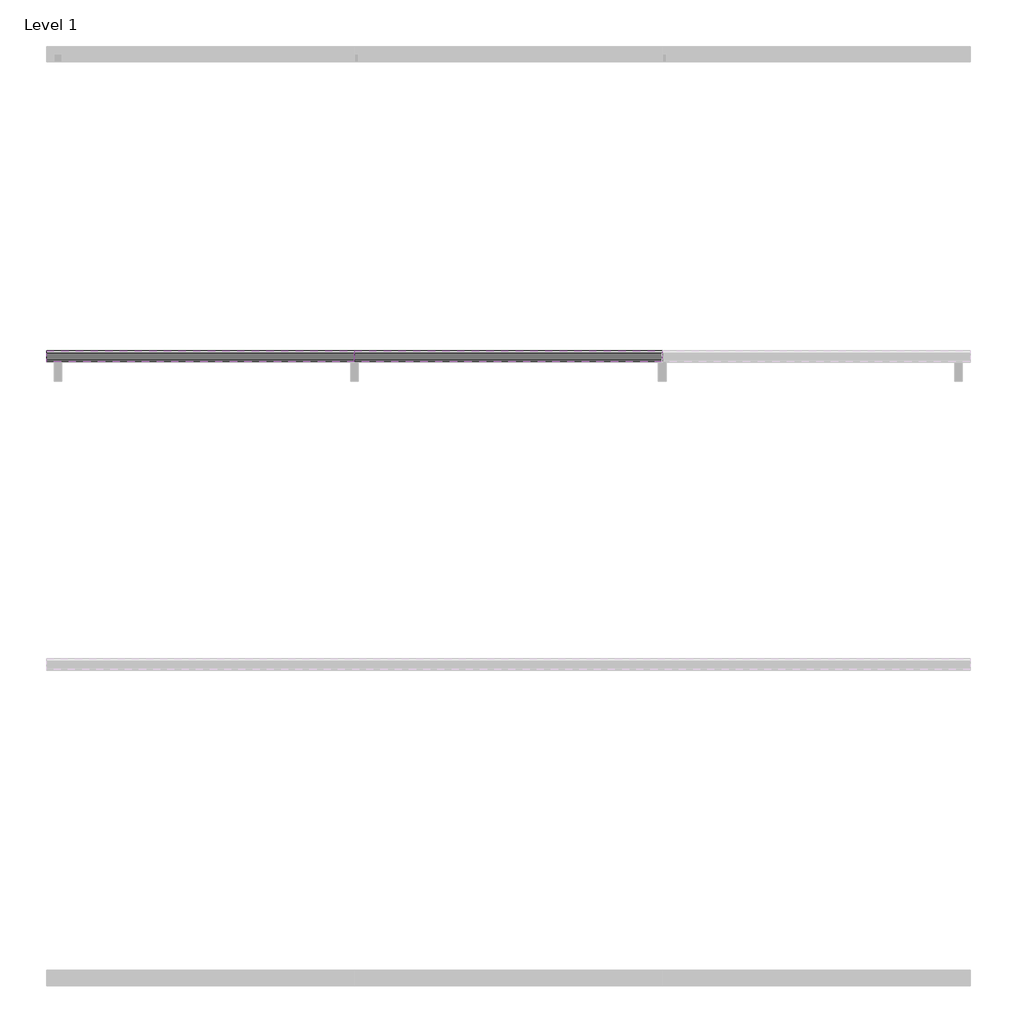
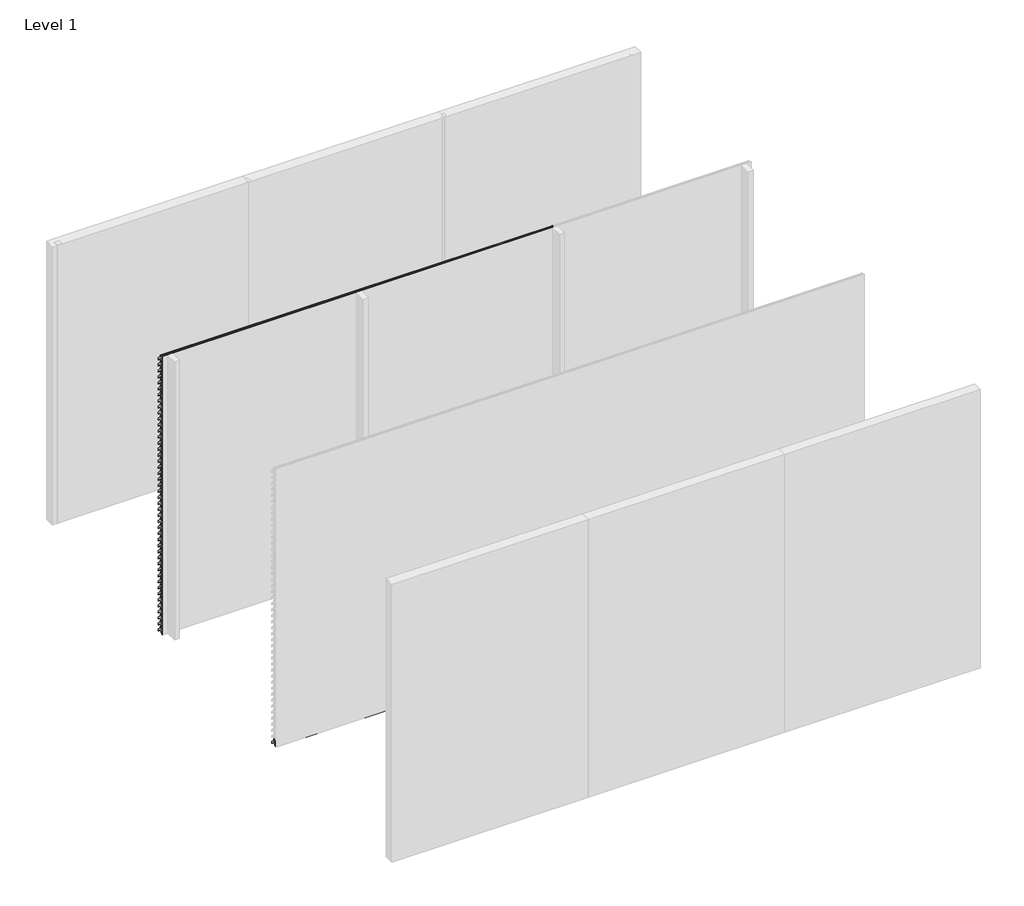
# One storey, part 2 of 9: 84 proxies.
"""IFC4 building model written with IfcOpenShell, lengths in millimetres."""

from ifc_helpers import new_model, si_unit, frame, origin, place, context, project, spatial, polyline, outline, extrude, element, save

model = new_model("IFC4")

# Units and contexts
model_context = context("Model", 3, world=origin())
ifc_project = project(units=[si_unit("LENGTHUNIT", "METRE", prefix="MILLI")], contexts=[model_context])

# Site, building, storey
site = spatial("IfcSite", under=ifc_project)
building = spatial("IfcBuilding", under=site)
storey = spatial("IfcBuildingStorey", under=building, Name="Level 1", Elevation=0.0)

# Proxies
placement = place(None, origin())
element("IfcBuildingElementProxy", 1, Name="Wall Sweeps", at=placement, inside=storey, context=model_context, shape_type="SweptSolid", body=[
    extrude(outline(polyline([(-17926.0, 2942.0), (-17926.0, 2919.0), (-17961.5, 2954.5), (-17997.0, 2919.0), (-17997.0, 2942.0), (-17962.5, 2976.5), (-17962.5, 2990.0), (-17960.5, 2990.0), (-17960.5, 2976.5), (-17926.0, 2942.0)])), frame((2000.0000001, 0.0, 0.0), z_axis=(1.0, 0.0, 0.0), x_axis=(0.0, 1.0, 0.0)), (0.0, 0.0, 1.0), 1999.9999998),
])
element("IfcBuildingElementProxy", 2, Name="Wall Sweeps", at=placement, inside=storey, context=model_context, shape_type="SweptSolid", body=[
    extrude(outline(polyline([(-17926.0, 2877.0), (-17926.0, 2854.0), (-17961.5, 2889.5), (-17997.0, 2854.0), (-17997.0, 2877.0), (-17962.5, 2911.5), (-17962.5, 2925.0), (-17960.5, 2925.0), (-17960.5, 2911.5), (-17926.0, 2877.0)])), frame((2000.0000001, 0.0, 0.0), z_axis=(1.0, 0.0, 0.0), x_axis=(0.0, 1.0, 0.0)), (0.0, 0.0, 1.0), 1999.9999998),
])
element("IfcBuildingElementProxy", 3, Name="Wall Sweeps", at=placement, inside=storey, context=model_context, shape_type="SweptSolid", body=[
    extrude(outline(polyline([(-17926.0, 2812.0), (-17926.0, 2789.0), (-17961.5, 2824.5), (-17997.0, 2789.0), (-17997.0, 2812.0), (-17962.5, 2846.5), (-17962.5, 2860.0), (-17960.5, 2860.0), (-17960.5, 2846.5), (-17926.0, 2812.0)])), frame((2000.0000001, 0.0, 0.0), z_axis=(1.0, 0.0, 0.0), x_axis=(0.0, 1.0, 0.0)), (0.0, 0.0, 1.0), 1999.9999998),
])
element("IfcBuildingElementProxy", 4, Name="Wall Sweeps", at=placement, inside=storey, context=model_context, shape_type="SweptSolid", body=[
    extrude(outline(polyline([(-17926.0, 2747.0), (-17926.0, 2724.0), (-17961.5, 2759.5), (-17997.0, 2724.0), (-17997.0, 2747.0), (-17962.5, 2781.5), (-17962.5, 2795.0), (-17960.5, 2795.0), (-17960.5, 2781.5), (-17926.0, 2747.0)])), frame((2000.0000001, 0.0, 0.0), z_axis=(1.0, 0.0, 0.0), x_axis=(0.0, 1.0, 0.0)), (0.0, 0.0, 1.0), 1999.9999998),
])
element("IfcBuildingElementProxy", 5, Name="Wall Sweeps", at=placement, inside=storey, context=model_context, shape_type="SweptSolid", body=[
    extrude(outline(polyline([(-17926.0, 2682.0), (-17926.0, 2659.0), (-17961.5, 2694.5), (-17997.0, 2659.0), (-17997.0, 2682.0), (-17962.5, 2716.5), (-17962.5, 2730.0), (-17960.5, 2730.0), (-17960.5, 2716.5), (-17926.0, 2682.0)])), frame((2000.0000001, 0.0, 0.0), z_axis=(1.0, 0.0, 0.0), x_axis=(0.0, 1.0, 0.0)), (0.0, 0.0, 1.0), 1999.9999998),
])
element("IfcBuildingElementProxy", 6, Name="Wall Sweeps", at=placement, inside=storey, context=model_context, shape_type="SweptSolid", body=[
    extrude(outline(polyline([(-17926.0, 2617.0), (-17926.0, 2594.0), (-17961.5, 2629.5), (-17997.0, 2594.0), (-17997.0, 2617.0), (-17962.5, 2651.5), (-17962.5, 2665.0), (-17960.5, 2665.0), (-17960.5, 2651.5), (-17926.0, 2617.0)])), frame((2000.0000001, 0.0, 0.0), z_axis=(1.0, 0.0, 0.0), x_axis=(0.0, 1.0, 0.0)), (0.0, 0.0, 1.0), 1999.9999998),
])
element("IfcBuildingElementProxy", 7, Name="Wall Sweeps", at=placement, inside=storey, context=model_context, shape_type="SweptSolid", body=[
    extrude(outline(polyline([(-17926.0, 2552.0), (-17926.0, 2529.0), (-17961.5, 2564.5), (-17997.0, 2529.0), (-17997.0, 2552.0), (-17962.5, 2586.5), (-17962.5, 2600.0), (-17960.5, 2600.0), (-17960.5, 2586.5), (-17926.0, 2552.0)])), frame((2000.0000001, 0.0, 0.0), z_axis=(1.0, 0.0, 0.0), x_axis=(0.0, 1.0, 0.0)), (0.0, 0.0, 1.0), 1999.9999998),
])
element("IfcBuildingElementProxy", 8, Name="Wall Sweeps", at=placement, inside=storey, context=model_context, shape_type="SweptSolid", body=[
    extrude(outline(polyline([(-17926.0, 2487.0), (-17926.0, 2464.0), (-17961.5, 2499.5), (-17997.0, 2464.0), (-17997.0, 2487.0), (-17962.5, 2521.5), (-17962.5, 2535.0), (-17960.5, 2535.0), (-17960.5, 2521.5), (-17926.0, 2487.0)])), frame((2000.0000001, 0.0, 0.0), z_axis=(1.0, 0.0, 0.0), x_axis=(0.0, 1.0, 0.0)), (0.0, 0.0, 1.0), 1999.9999998),
])
element("IfcBuildingElementProxy", 9, Name="Wall Sweeps", at=placement, inside=storey, context=model_context, shape_type="SweptSolid", body=[
    extrude(outline(polyline([(-17926.0, 2422.0), (-17926.0, 2399.0), (-17961.5, 2434.5), (-17997.0, 2399.0), (-17997.0, 2422.0), (-17962.5, 2456.5), (-17962.5, 2470.0), (-17960.5, 2470.0), (-17960.5, 2456.5), (-17926.0, 2422.0)])), frame((2000.0000001, 0.0, 0.0), z_axis=(1.0, 0.0, 0.0), x_axis=(0.0, 1.0, 0.0)), (0.0, 0.0, 1.0), 1999.9999998),
])
element("IfcBuildingElementProxy", 10, Name="Wall Sweeps", at=placement, inside=storey, context=model_context, shape_type="SweptSolid", body=[
    extrude(outline(polyline([(-17926.0, 2357.0), (-17926.0, 2334.0), (-17961.5, 2369.5), (-17997.0, 2334.0), (-17997.0, 2357.0), (-17962.5, 2391.5), (-17962.5, 2405.0), (-17960.5, 2405.0), (-17960.5, 2391.5), (-17926.0, 2357.0)])), frame((2000.0000001, 0.0, 0.0), z_axis=(1.0, 0.0, 0.0), x_axis=(0.0, 1.0, 0.0)), (0.0, 0.0, 1.0), 1999.9999998),
])
element("IfcBuildingElementProxy", 11, Name="Wall Sweeps", at=placement, inside=storey, context=model_context, shape_type="SweptSolid", body=[
    extrude(outline(polyline([(-17926.0, 2292.0), (-17926.0, 2269.0), (-17961.5, 2304.5), (-17997.0, 2269.0), (-17997.0, 2292.0), (-17962.5, 2326.5), (-17962.5, 2340.0), (-17960.5, 2340.0), (-17960.5, 2326.5), (-17926.0, 2292.0)])), frame((2000.0000001, 0.0, 0.0), z_axis=(1.0, 0.0, 0.0), x_axis=(0.0, 1.0, 0.0)), (0.0, 0.0, 1.0), 1999.9999998),
])
element("IfcBuildingElementProxy", 12, Name="Wall Sweeps", at=placement, inside=storey, context=model_context, shape_type="SweptSolid", body=[
    extrude(outline(polyline([(-17926.0, 2227.0), (-17926.0, 2204.0), (-17961.5, 2239.5), (-17997.0, 2204.0), (-17997.0, 2227.0), (-17962.5, 2261.5), (-17962.5, 2275.0), (-17960.5, 2275.0), (-17960.5, 2261.5), (-17926.0, 2227.0)])), frame((2000.0000001, 0.0, 0.0), z_axis=(1.0, 0.0, 0.0), x_axis=(0.0, 1.0, 0.0)), (0.0, 0.0, 1.0), 1999.9999998),
])
element("IfcBuildingElementProxy", 13, Name="Wall Sweeps", at=placement, inside=storey, context=model_context, shape_type="SweptSolid", body=[
    extrude(outline(polyline([(-17926.0, 2162.0), (-17926.0, 2139.0), (-17961.5, 2174.5), (-17997.0, 2139.0), (-17997.0, 2162.0), (-17962.5, 2196.5), (-17962.5, 2210.0), (-17960.5, 2210.0), (-17960.5, 2196.5), (-17926.0, 2162.0)])), frame((2000.0000001, 0.0, 0.0), z_axis=(1.0, 0.0, 0.0), x_axis=(0.0, 1.0, 0.0)), (0.0, 0.0, 1.0), 1999.9999998),
])
element("IfcBuildingElementProxy", 14, Name="Wall Sweeps", at=placement, inside=storey, context=model_context, shape_type="SweptSolid", body=[
    extrude(outline(polyline([(-17926.0, 2097.0), (-17926.0, 2074.0), (-17961.5, 2109.5), (-17997.0, 2074.0), (-17997.0, 2097.0), (-17962.5, 2131.5), (-17962.5, 2145.0), (-17960.5, 2145.0), (-17960.5, 2131.5), (-17926.0, 2097.0)])), frame((2000.0000001, 0.0, 0.0), z_axis=(1.0, 0.0, 0.0), x_axis=(0.0, 1.0, 0.0)), (0.0, 0.0, 1.0), 1999.9999998),
])
element("IfcBuildingElementProxy", 15, Name="Wall Sweeps", at=placement, inside=storey, context=model_context, shape_type="SweptSolid", body=[
    extrude(outline(polyline([(-17926.0, 2032.0), (-17926.0, 2009.0), (-17961.5, 2044.5), (-17997.0, 2009.0), (-17997.0, 2032.0), (-17962.5, 2066.5), (-17962.5, 2080.0), (-17960.5, 2080.0), (-17960.5, 2066.5), (-17926.0, 2032.0)])), frame((2000.0000001, 0.0, 0.0), z_axis=(1.0, 0.0, 0.0), x_axis=(0.0, 1.0, 0.0)), (0.0, 0.0, 1.0), 1999.9999998),
])
element("IfcBuildingElementProxy", 16, Name="Wall Sweeps", at=placement, inside=storey, context=model_context, shape_type="SweptSolid", body=[
    extrude(outline(polyline([(-17926.0, 1967.0), (-17926.0, 1944.0), (-17961.5, 1979.5), (-17997.0, 1944.0), (-17997.0, 1967.0), (-17962.5, 2001.5), (-17962.5, 2015.0), (-17960.5, 2015.0), (-17960.5, 2001.5), (-17926.0, 1967.0)])), frame((2000.0000001, 0.0, 0.0), z_axis=(1.0, 0.0, 0.0), x_axis=(0.0, 1.0, 0.0)), (0.0, 0.0, 1.0), 1999.9999998),
])
element("IfcBuildingElementProxy", 17, Name="Wall Sweeps", at=placement, inside=storey, context=model_context, shape_type="SweptSolid", body=[
    extrude(outline(polyline([(-17926.0, 1902.0), (-17926.0, 1879.0), (-17961.5, 1914.5), (-17997.0, 1879.0), (-17997.0, 1902.0), (-17962.5, 1936.5), (-17962.5, 1950.0), (-17960.5, 1950.0), (-17960.5, 1936.5), (-17926.0, 1902.0)])), frame((2000.0000001, 0.0, 0.0), z_axis=(1.0, 0.0, 0.0), x_axis=(0.0, 1.0, 0.0)), (0.0, 0.0, 1.0), 1999.9999998),
])
element("IfcBuildingElementProxy", 18, Name="Wall Sweeps", at=placement, inside=storey, context=model_context, shape_type="SweptSolid", body=[
    extrude(outline(polyline([(-17926.0, 1837.0), (-17926.0, 1814.0), (-17961.5, 1849.5), (-17997.0, 1814.0), (-17997.0, 1837.0), (-17962.5, 1871.5), (-17962.5, 1885.0), (-17960.5, 1885.0), (-17960.5, 1871.5), (-17926.0, 1837.0)])), frame((2000.0000001, 0.0, 0.0), z_axis=(1.0, 0.0, 0.0), x_axis=(0.0, 1.0, 0.0)), (0.0, 0.0, 1.0), 1999.9999998),
])
element("IfcBuildingElementProxy", 19, Name="Wall Sweeps", at=placement, inside=storey, context=model_context, shape_type="SweptSolid", body=[
    extrude(outline(polyline([(-17926.0, 1772.0), (-17926.0, 1749.0), (-17961.5, 1784.5), (-17997.0, 1749.0), (-17997.0, 1772.0), (-17962.5, 1806.5), (-17962.5, 1820.0), (-17960.5, 1820.0), (-17960.5, 1806.5), (-17926.0, 1772.0)])), frame((2000.0000001, 0.0, 0.0), z_axis=(1.0, 0.0, 0.0), x_axis=(0.0, 1.0, 0.0)), (0.0, 0.0, 1.0), 1999.9999998),
])
element("IfcBuildingElementProxy", 20, Name="Wall Sweeps", at=placement, inside=storey, context=model_context, shape_type="SweptSolid", body=[
    extrude(outline(polyline([(-17926.0, 1707.0), (-17926.0, 1684.0), (-17961.5, 1719.5), (-17997.0, 1684.0), (-17997.0, 1707.0), (-17962.5, 1741.5), (-17962.5, 1755.0), (-17960.5, 1755.0), (-17960.5, 1741.5), (-17926.0, 1707.0)])), frame((2000.0000001, 0.0, 0.0), z_axis=(1.0, 0.0, 0.0), x_axis=(0.0, 1.0, 0.0)), (0.0, 0.0, 1.0), 1999.9999998),
])
element("IfcBuildingElementProxy", 21, Name="Wall Sweeps", at=placement, inside=storey, context=model_context, shape_type="SweptSolid", body=[
    extrude(outline(polyline([(-17926.0, 1642.0), (-17926.0, 1619.0), (-17961.5, 1654.5), (-17997.0, 1619.0), (-17997.0, 1642.0), (-17962.5, 1676.5), (-17962.5, 1690.0), (-17960.5, 1690.0), (-17960.5, 1676.5), (-17926.0, 1642.0)])), frame((2000.0000001, 0.0, 0.0), z_axis=(1.0, 0.0, 0.0), x_axis=(0.0, 1.0, 0.0)), (0.0, 0.0, 1.0), 1999.9999998),
])
element("IfcBuildingElementProxy", 22, Name="Wall Sweeps", at=placement, inside=storey, context=model_context, shape_type="SweptSolid", body=[
    extrude(outline(polyline([(-17926.0, 1577.0), (-17926.0, 1554.0), (-17961.5, 1589.5), (-17997.0, 1554.0), (-17997.0, 1577.0), (-17962.5, 1611.5), (-17962.5, 1625.0), (-17960.5, 1625.0), (-17960.5, 1611.5), (-17926.0, 1577.0)])), frame((2000.0000001, 0.0, 0.0), z_axis=(1.0, 0.0, 0.0), x_axis=(0.0, 1.0, 0.0)), (0.0, 0.0, 1.0), 1999.9999998),
])
element("IfcBuildingElementProxy", 23, Name="Wall Sweeps", at=placement, inside=storey, context=model_context, shape_type="SweptSolid", body=[
    extrude(outline(polyline([(-17926.0, 1512.0), (-17926.0, 1489.0), (-17961.5, 1524.5), (-17997.0, 1489.0), (-17997.0, 1512.0), (-17962.5, 1546.5), (-17962.5, 1560.0), (-17960.5, 1560.0), (-17960.5, 1546.5), (-17926.0, 1512.0)])), frame((2000.0000001, 0.0, 0.0), z_axis=(1.0, 0.0, 0.0), x_axis=(0.0, 1.0, 0.0)), (0.0, 0.0, 1.0), 1999.9999998),
])
element("IfcBuildingElementProxy", 24, Name="Wall Sweeps", at=placement, inside=storey, context=model_context, shape_type="SweptSolid", body=[
    extrude(outline(polyline([(-17926.0, 1447.0), (-17926.0, 1424.0), (-17961.5, 1459.5), (-17997.0, 1424.0), (-17997.0, 1447.0), (-17962.5, 1481.5), (-17962.5, 1495.0), (-17960.5, 1495.0), (-17960.5, 1481.5), (-17926.0, 1447.0)])), frame((2000.0000001, 0.0, 0.0), z_axis=(1.0, 0.0, 0.0), x_axis=(0.0, 1.0, 0.0)), (0.0, 0.0, 1.0), 1999.9999998),
])
element("IfcBuildingElementProxy", 25, Name="Wall Sweeps", at=placement, inside=storey, context=model_context, shape_type="SweptSolid", body=[
    extrude(outline(polyline([(-17926.0, 1382.0), (-17926.0, 1359.0), (-17961.5, 1394.5), (-17997.0, 1359.0), (-17997.0, 1382.0), (-17962.5, 1416.5), (-17962.5, 1430.0), (-17960.5, 1430.0), (-17960.5, 1416.5), (-17926.0, 1382.0)])), frame((2000.0000001, 0.0, 0.0), z_axis=(1.0, 0.0, 0.0), x_axis=(0.0, 1.0, 0.0)), (0.0, 0.0, 1.0), 1999.9999998),
])
element("IfcBuildingElementProxy", 26, Name="Wall Sweeps", at=placement, inside=storey, context=model_context, shape_type="SweptSolid", body=[
    extrude(outline(polyline([(-17926.0, 1317.0), (-17926.0, 1294.0), (-17961.5, 1329.5), (-17997.0, 1294.0), (-17997.0, 1317.0), (-17962.5, 1351.5), (-17962.5, 1365.0), (-17960.5, 1365.0), (-17960.5, 1351.5), (-17926.0, 1317.0)])), frame((2000.0000001, 0.0, 0.0), z_axis=(1.0, 0.0, 0.0), x_axis=(0.0, 1.0, 0.0)), (0.0, 0.0, 1.0), 1999.9999998),
])
element("IfcBuildingElementProxy", 27, Name="Wall Sweeps", at=placement, inside=storey, context=model_context, shape_type="SweptSolid", body=[
    extrude(outline(polyline([(-17926.0, 1252.0), (-17926.0, 1229.0), (-17961.5, 1264.5), (-17997.0, 1229.0), (-17997.0, 1252.0), (-17962.5, 1286.5), (-17962.5, 1300.0), (-17960.5, 1300.0), (-17960.5, 1286.5), (-17926.0, 1252.0)])), frame((2000.0000001, 0.0, 0.0), z_axis=(1.0, 0.0, 0.0), x_axis=(0.0, 1.0, 0.0)), (0.0, 0.0, 1.0), 1999.9999998),
])
element("IfcBuildingElementProxy", 28, Name="Wall Sweeps", at=placement, inside=storey, context=model_context, shape_type="SweptSolid", body=[
    extrude(outline(polyline([(-17926.0, 1187.0), (-17926.0, 1164.0), (-17961.5, 1199.5), (-17997.0, 1164.0), (-17997.0, 1187.0), (-17962.5, 1221.5), (-17962.5, 1235.0), (-17960.5, 1235.0), (-17960.5, 1221.5), (-17926.0, 1187.0)])), frame((2000.0000001, 0.0, 0.0), z_axis=(1.0, 0.0, 0.0), x_axis=(0.0, 1.0, 0.0)), (0.0, 0.0, 1.0), 1999.9999998),
])
element("IfcBuildingElementProxy", 29, Name="Wall Sweeps", at=placement, inside=storey, context=model_context, shape_type="SweptSolid", body=[
    extrude(outline(polyline([(-17926.0, 1122.0), (-17926.0, 1099.0), (-17961.5, 1134.5), (-17997.0, 1099.0), (-17997.0, 1122.0), (-17962.5, 1156.5), (-17962.5, 1170.0), (-17960.5, 1170.0), (-17960.5, 1156.5), (-17926.0, 1122.0)])), frame((2000.0000001, 0.0, 0.0), z_axis=(1.0, 0.0, 0.0), x_axis=(0.0, 1.0, 0.0)), (0.0, 0.0, 1.0), 1999.9999998),
])
element("IfcBuildingElementProxy", 30, Name="Wall Sweeps", at=placement, inside=storey, context=model_context, shape_type="SweptSolid", body=[
    extrude(outline(polyline([(-17926.0, 1057.0), (-17926.0, 1034.0), (-17961.5, 1069.5), (-17997.0, 1034.0), (-17997.0, 1057.0), (-17962.5, 1091.5), (-17962.5, 1105.0), (-17960.5, 1105.0), (-17960.5, 1091.5), (-17926.0, 1057.0)])), frame((2000.0000001, 0.0, 0.0), z_axis=(1.0, 0.0, 0.0), x_axis=(0.0, 1.0, 0.0)), (0.0, 0.0, 1.0), 1999.9999998),
])
element("IfcBuildingElementProxy", 31, Name="Wall Sweeps", at=placement, inside=storey, context=model_context, shape_type="SweptSolid", body=[
    extrude(outline(polyline([(-17926.0, 992.0), (-17926.0, 969.0), (-17961.5, 1004.5), (-17997.0, 969.0), (-17997.0, 992.0), (-17962.5, 1026.5), (-17962.5, 1040.0), (-17960.5, 1040.0), (-17960.5, 1026.5), (-17926.0, 992.0)])), frame((2000.0000001, 0.0, 0.0), z_axis=(1.0, 0.0, 0.0), x_axis=(0.0, 1.0, 0.0)), (0.0, 0.0, 1.0), 1999.9999998),
])
element("IfcBuildingElementProxy", 32, Name="Wall Sweeps", at=placement, inside=storey, context=model_context, shape_type="SweptSolid", body=[
    extrude(outline(polyline([(-17926.0, 927.0), (-17926.0, 904.0), (-17961.5, 939.5), (-17997.0, 904.0), (-17997.0, 927.0), (-17962.5, 961.5), (-17962.5, 975.0), (-17960.5, 975.0), (-17960.5, 961.5), (-17926.0, 927.0)])), frame((2000.0000001, 0.0, 0.0), z_axis=(1.0, 0.0, 0.0), x_axis=(0.0, 1.0, 0.0)), (0.0, 0.0, 1.0), 1999.9999998),
])
element("IfcBuildingElementProxy", 33, Name="Wall Sweeps", at=placement, inside=storey, context=model_context, shape_type="SweptSolid", body=[
    extrude(outline(polyline([(-17926.0, 862.0), (-17926.0, 839.0), (-17961.5, 874.5), (-17997.0, 839.0), (-17997.0, 862.0), (-17962.5, 896.5), (-17962.5, 910.0), (-17960.5, 910.0), (-17960.5, 896.5), (-17926.0, 862.0)])), frame((2000.0000001, 0.0, 0.0), z_axis=(1.0, 0.0, 0.0), x_axis=(0.0, 1.0, 0.0)), (0.0, 0.0, 1.0), 1999.9999998),
])
element("IfcBuildingElementProxy", 34, Name="Wall Sweeps", at=placement, inside=storey, context=model_context, shape_type="SweptSolid", body=[
    extrude(outline(polyline([(-17926.0, 797.0), (-17926.0, 774.0), (-17961.5, 809.5), (-17997.0, 774.0), (-17997.0, 797.0), (-17962.5, 831.5), (-17962.5, 845.0), (-17960.5, 845.0), (-17960.5, 831.5), (-17926.0, 797.0)])), frame((2000.0000001, 0.0, 0.0), z_axis=(1.0, 0.0, 0.0), x_axis=(0.0, 1.0, 0.0)), (0.0, 0.0, 1.0), 1999.9999998),
])
element("IfcBuildingElementProxy", 35, Name="Wall Sweeps", at=placement, inside=storey, context=model_context, shape_type="SweptSolid", body=[
    extrude(outline(polyline([(-17926.0, 732.0), (-17926.0, 709.0), (-17961.5, 744.5), (-17997.0, 709.0), (-17997.0, 732.0), (-17962.5, 766.5), (-17962.5, 780.0), (-17960.5, 780.0), (-17960.5, 766.5), (-17926.0, 732.0)])), frame((2000.0000001, 0.0, 0.0), z_axis=(1.0, 0.0, 0.0), x_axis=(0.0, 1.0, 0.0)), (0.0, 0.0, 1.0), 1999.9999998),
])
element("IfcBuildingElementProxy", 36, Name="Wall Sweeps", at=placement, inside=storey, context=model_context, shape_type="SweptSolid", body=[
    extrude(outline(polyline([(-17926.0, 667.0), (-17926.0, 644.0), (-17961.5, 679.5), (-17997.0, 644.0), (-17997.0, 667.0), (-17962.5, 701.5), (-17962.5, 715.0), (-17960.5, 715.0), (-17960.5, 701.5), (-17926.0, 667.0)])), frame((2000.0000001, 0.0, 0.0), z_axis=(1.0, 0.0, 0.0), x_axis=(0.0, 1.0, 0.0)), (0.0, 0.0, 1.0), 1999.9999998),
])
element("IfcBuildingElementProxy", 37, Name="Wall Sweeps", at=placement, inside=storey, context=model_context, shape_type="SweptSolid", body=[
    extrude(outline(polyline([(-17926.0, 602.0), (-17926.0, 579.0), (-17961.5, 614.5), (-17997.0, 579.0), (-17997.0, 602.0), (-17962.5, 636.5), (-17962.5, 650.0), (-17960.5, 650.0), (-17960.5, 636.5), (-17926.0, 602.0)])), frame((2000.0000001, 0.0, 0.0), z_axis=(1.0, 0.0, 0.0), x_axis=(0.0, 1.0, 0.0)), (0.0, 0.0, 1.0), 1999.9999998),
])
element("IfcBuildingElementProxy", 38, Name="Wall Sweeps", at=placement, inside=storey, context=model_context, shape_type="SweptSolid", body=[
    extrude(outline(polyline([(-17926.0, 2942.0), (-17926.0, 2919.0), (-17961.5, 2954.5), (-17997.0, 2919.0), (-17997.0, 2942.0), (-17962.5, 2976.5), (-17962.5, 2990.0), (-17960.5, 2990.0), (-17960.5, 2976.5), (-17926.0, 2942.0)])), frame((0.0, 0.0, 0.0), z_axis=(1.0, 0.0, 0.0), x_axis=(0.0, 1.0, 0.0)), (0.0, 0.0, 1.0), 2000.0000001),
])
element("IfcBuildingElementProxy", 39, Name="Wall Sweeps", at=placement, inside=storey, context=model_context, shape_type="SweptSolid", body=[
    extrude(outline(polyline([(-17926.0, 2877.0), (-17926.0, 2854.0), (-17961.5, 2889.5), (-17997.0, 2854.0), (-17997.0, 2877.0), (-17962.5, 2911.5), (-17962.5, 2925.0), (-17960.5, 2925.0), (-17960.5, 2911.5), (-17926.0, 2877.0)])), frame((0.0, 0.0, 0.0), z_axis=(1.0, 0.0, 0.0), x_axis=(0.0, 1.0, 0.0)), (0.0, 0.0, 1.0), 2000.0000001),
])
element("IfcBuildingElementProxy", 40, Name="Wall Sweeps", at=placement, inside=storey, context=model_context, shape_type="SweptSolid", body=[
    extrude(outline(polyline([(-17926.0, 2812.0), (-17926.0, 2789.0), (-17961.5, 2824.5), (-17997.0, 2789.0), (-17997.0, 2812.0), (-17962.5, 2846.5), (-17962.5, 2860.0), (-17960.5, 2860.0), (-17960.5, 2846.5), (-17926.0, 2812.0)])), frame((0.0, 0.0, 0.0), z_axis=(1.0, 0.0, 0.0), x_axis=(0.0, 1.0, 0.0)), (0.0, 0.0, 1.0), 2000.0000001),
])
element("IfcBuildingElementProxy", 41, Name="Wall Sweeps", at=placement, inside=storey, context=model_context, shape_type="SweptSolid", body=[
    extrude(outline(polyline([(-17926.0, 2747.0), (-17926.0, 2724.0), (-17961.5, 2759.5), (-17997.0, 2724.0), (-17997.0, 2747.0), (-17962.5, 2781.5), (-17962.5, 2795.0), (-17960.5, 2795.0), (-17960.5, 2781.5), (-17926.0, 2747.0)])), frame((0.0, 0.0, 0.0), z_axis=(1.0, 0.0, 0.0), x_axis=(0.0, 1.0, 0.0)), (0.0, 0.0, 1.0), 2000.0000001),
])
element("IfcBuildingElementProxy", 42, Name="Wall Sweeps", at=placement, inside=storey, context=model_context, shape_type="SweptSolid", body=[
    extrude(outline(polyline([(-17926.0, 2682.0), (-17926.0, 2659.0), (-17961.5, 2694.5), (-17997.0, 2659.0), (-17997.0, 2682.0), (-17962.5, 2716.5), (-17962.5, 2730.0), (-17960.5, 2730.0), (-17960.5, 2716.5), (-17926.0, 2682.0)])), frame((0.0, 0.0, 0.0), z_axis=(1.0, 0.0, 0.0), x_axis=(0.0, 1.0, 0.0)), (0.0, 0.0, 1.0), 2000.0000001),
])
element("IfcBuildingElementProxy", 43, Name="Wall Sweeps", at=placement, inside=storey, context=model_context, shape_type="SweptSolid", body=[
    extrude(outline(polyline([(-17926.0, 2617.0), (-17926.0, 2594.0), (-17961.5, 2629.5), (-17997.0, 2594.0), (-17997.0, 2617.0), (-17962.5, 2651.5), (-17962.5, 2665.0), (-17960.5, 2665.0), (-17960.5, 2651.5), (-17926.0, 2617.0)])), frame((0.0, 0.0, 0.0), z_axis=(1.0, 0.0, 0.0), x_axis=(0.0, 1.0, 0.0)), (0.0, 0.0, 1.0), 2000.0000001),
])
element("IfcBuildingElementProxy", 44, Name="Wall Sweeps", at=placement, inside=storey, context=model_context, shape_type="SweptSolid", body=[
    extrude(outline(polyline([(-17926.0, 2552.0), (-17926.0, 2529.0), (-17961.5, 2564.5), (-17997.0, 2529.0), (-17997.0, 2552.0), (-17962.5, 2586.5), (-17962.5, 2600.0), (-17960.5, 2600.0), (-17960.5, 2586.5), (-17926.0, 2552.0)])), frame((0.0, 0.0, 0.0), z_axis=(1.0, 0.0, 0.0), x_axis=(0.0, 1.0, 0.0)), (0.0, 0.0, 1.0), 2000.0000001),
])
element("IfcBuildingElementProxy", 45, Name="Wall Sweeps", at=placement, inside=storey, context=model_context, shape_type="SweptSolid", body=[
    extrude(outline(polyline([(-17926.0, 2487.0), (-17926.0, 2464.0), (-17961.5, 2499.5), (-17997.0, 2464.0), (-17997.0, 2487.0), (-17962.5, 2521.5), (-17962.5, 2535.0), (-17960.5, 2535.0), (-17960.5, 2521.5), (-17926.0, 2487.0)])), frame((0.0, 0.0, 0.0), z_axis=(1.0, 0.0, 0.0), x_axis=(0.0, 1.0, 0.0)), (0.0, 0.0, 1.0), 2000.0000001),
])
element("IfcBuildingElementProxy", 46, Name="Wall Sweeps", at=placement, inside=storey, context=model_context, shape_type="SweptSolid", body=[
    extrude(outline(polyline([(-17926.0, 2422.0), (-17926.0, 2399.0), (-17961.5, 2434.5), (-17997.0, 2399.0), (-17997.0, 2422.0), (-17962.5, 2456.5), (-17962.5, 2470.0), (-17960.5, 2470.0), (-17960.5, 2456.5), (-17926.0, 2422.0)])), frame((0.0, 0.0, 0.0), z_axis=(1.0, 0.0, 0.0), x_axis=(0.0, 1.0, 0.0)), (0.0, 0.0, 1.0), 2000.0000001),
])
element("IfcBuildingElementProxy", 47, Name="Wall Sweeps", at=placement, inside=storey, context=model_context, shape_type="SweptSolid", body=[
    extrude(outline(polyline([(-17926.0, 2357.0), (-17926.0, 2334.0), (-17961.5, 2369.5), (-17997.0, 2334.0), (-17997.0, 2357.0), (-17962.5, 2391.5), (-17962.5, 2405.0), (-17960.5, 2405.0), (-17960.5, 2391.5), (-17926.0, 2357.0)])), frame((0.0, 0.0, 0.0), z_axis=(1.0, 0.0, 0.0), x_axis=(0.0, 1.0, 0.0)), (0.0, 0.0, 1.0), 2000.0000001),
])
element("IfcBuildingElementProxy", 48, Name="Wall Sweeps", at=placement, inside=storey, context=model_context, shape_type="SweptSolid", body=[
    extrude(outline(polyline([(-17926.0, 2292.0), (-17926.0, 2269.0), (-17961.5, 2304.5), (-17997.0, 2269.0), (-17997.0, 2292.0), (-17962.5, 2326.5), (-17962.5, 2340.0), (-17960.5, 2340.0), (-17960.5, 2326.5), (-17926.0, 2292.0)])), frame((0.0, 0.0, 0.0), z_axis=(1.0, 0.0, 0.0), x_axis=(0.0, 1.0, 0.0)), (0.0, 0.0, 1.0), 2000.0000001),
])
element("IfcBuildingElementProxy", 49, Name="Wall Sweeps", at=placement, inside=storey, context=model_context, shape_type="SweptSolid", body=[
    extrude(outline(polyline([(-17926.0, 2227.0), (-17926.0, 2204.0), (-17961.5, 2239.5), (-17997.0, 2204.0), (-17997.0, 2227.0), (-17962.5, 2261.5), (-17962.5, 2275.0), (-17960.5, 2275.0), (-17960.5, 2261.5), (-17926.0, 2227.0)])), frame((0.0, 0.0, 0.0), z_axis=(1.0, 0.0, 0.0), x_axis=(0.0, 1.0, 0.0)), (0.0, 0.0, 1.0), 2000.0000001),
])
element("IfcBuildingElementProxy", 50, Name="Wall Sweeps", at=placement, inside=storey, context=model_context, shape_type="SweptSolid", body=[
    extrude(outline(polyline([(-17926.0, 2162.0), (-17926.0, 2139.0), (-17961.5, 2174.5), (-17997.0, 2139.0), (-17997.0, 2162.0), (-17962.5, 2196.5), (-17962.5, 2210.0), (-17960.5, 2210.0), (-17960.5, 2196.5), (-17926.0, 2162.0)])), frame((0.0, 0.0, 0.0), z_axis=(1.0, 0.0, 0.0), x_axis=(0.0, 1.0, 0.0)), (0.0, 0.0, 1.0), 2000.0000001),
])
element("IfcBuildingElementProxy", 51, Name="Wall Sweeps", at=placement, inside=storey, context=model_context, shape_type="SweptSolid", body=[
    extrude(outline(polyline([(-17926.0, 2097.0), (-17926.0, 2074.0), (-17961.5, 2109.5), (-17997.0, 2074.0), (-17997.0, 2097.0), (-17962.5, 2131.5), (-17962.5, 2145.0), (-17960.5, 2145.0), (-17960.5, 2131.5), (-17926.0, 2097.0)])), frame((0.0, 0.0, 0.0), z_axis=(1.0, 0.0, 0.0), x_axis=(0.0, 1.0, 0.0)), (0.0, 0.0, 1.0), 2000.0000001),
])
element("IfcBuildingElementProxy", 52, Name="Wall Sweeps", at=placement, inside=storey, context=model_context, shape_type="SweptSolid", body=[
    extrude(outline(polyline([(-17926.0, 2032.0), (-17926.0, 2009.0), (-17961.5, 2044.5), (-17997.0, 2009.0), (-17997.0, 2032.0), (-17962.5, 2066.5), (-17962.5, 2080.0), (-17960.5, 2080.0), (-17960.5, 2066.5), (-17926.0, 2032.0)])), frame((0.0, 0.0, 0.0), z_axis=(1.0, 0.0, 0.0), x_axis=(0.0, 1.0, 0.0)), (0.0, 0.0, 1.0), 2000.0000001),
])
element("IfcBuildingElementProxy", 53, Name="Wall Sweeps", at=placement, inside=storey, context=model_context, shape_type="SweptSolid", body=[
    extrude(outline(polyline([(-17926.0, 1967.0), (-17926.0, 1944.0), (-17961.5, 1979.5), (-17997.0, 1944.0), (-17997.0, 1967.0), (-17962.5, 2001.5), (-17962.5, 2015.0), (-17960.5, 2015.0), (-17960.5, 2001.5), (-17926.0, 1967.0)])), frame((0.0, 0.0, 0.0), z_axis=(1.0, 0.0, 0.0), x_axis=(0.0, 1.0, 0.0)), (0.0, 0.0, 1.0), 2000.0000001),
])
element("IfcBuildingElementProxy", 54, Name="Wall Sweeps", at=placement, inside=storey, context=model_context, shape_type="SweptSolid", body=[
    extrude(outline(polyline([(-17926.0, 1902.0), (-17926.0, 1879.0), (-17961.5, 1914.5), (-17997.0, 1879.0), (-17997.0, 1902.0), (-17962.5, 1936.5), (-17962.5, 1950.0), (-17960.5, 1950.0), (-17960.5, 1936.5), (-17926.0, 1902.0)])), frame((0.0, 0.0, 0.0), z_axis=(1.0, 0.0, 0.0), x_axis=(0.0, 1.0, 0.0)), (0.0, 0.0, 1.0), 2000.0000001),
])
element("IfcBuildingElementProxy", 55, Name="Wall Sweeps", at=placement, inside=storey, context=model_context, shape_type="SweptSolid", body=[
    extrude(outline(polyline([(-17926.0, 1837.0), (-17926.0, 1814.0), (-17961.5, 1849.5), (-17997.0, 1814.0), (-17997.0, 1837.0), (-17962.5, 1871.5), (-17962.5, 1885.0), (-17960.5, 1885.0), (-17960.5, 1871.5), (-17926.0, 1837.0)])), frame((0.0, 0.0, 0.0), z_axis=(1.0, 0.0, 0.0), x_axis=(0.0, 1.0, 0.0)), (0.0, 0.0, 1.0), 2000.0000001),
])
element("IfcBuildingElementProxy", 56, Name="Wall Sweeps", at=placement, inside=storey, context=model_context, shape_type="SweptSolid", body=[
    extrude(outline(polyline([(-17926.0, 1772.0), (-17926.0, 1749.0), (-17961.5, 1784.5), (-17997.0, 1749.0), (-17997.0, 1772.0), (-17962.5, 1806.5), (-17962.5, 1820.0), (-17960.5, 1820.0), (-17960.5, 1806.5), (-17926.0, 1772.0)])), frame((0.0, 0.0, 0.0), z_axis=(1.0, 0.0, 0.0), x_axis=(0.0, 1.0, 0.0)), (0.0, 0.0, 1.0), 2000.0000001),
])
element("IfcBuildingElementProxy", 57, Name="Wall Sweeps", at=placement, inside=storey, context=model_context, shape_type="SweptSolid", body=[
    extrude(outline(polyline([(-17926.0, 1707.0), (-17926.0, 1684.0), (-17961.5, 1719.5), (-17997.0, 1684.0), (-17997.0, 1707.0), (-17962.5, 1741.5), (-17962.5, 1755.0), (-17960.5, 1755.0), (-17960.5, 1741.5), (-17926.0, 1707.0)])), frame((0.0, 0.0, 0.0), z_axis=(1.0, 0.0, 0.0), x_axis=(0.0, 1.0, 0.0)), (0.0, 0.0, 1.0), 2000.0000001),
])
element("IfcBuildingElementProxy", 58, Name="Wall Sweeps", at=placement, inside=storey, context=model_context, shape_type="SweptSolid", body=[
    extrude(outline(polyline([(-17926.0, 1642.0), (-17926.0, 1619.0), (-17961.5, 1654.5), (-17997.0, 1619.0), (-17997.0, 1642.0), (-17962.5, 1676.5), (-17962.5, 1690.0), (-17960.5, 1690.0), (-17960.5, 1676.5), (-17926.0, 1642.0)])), frame((0.0, 0.0, 0.0), z_axis=(1.0, 0.0, 0.0), x_axis=(0.0, 1.0, 0.0)), (0.0, 0.0, 1.0), 2000.0000001),
])
element("IfcBuildingElementProxy", 59, Name="Wall Sweeps", at=placement, inside=storey, context=model_context, shape_type="SweptSolid", body=[
    extrude(outline(polyline([(-17926.0, 1577.0), (-17926.0, 1554.0), (-17961.5, 1589.5), (-17997.0, 1554.0), (-17997.0, 1577.0), (-17962.5, 1611.5), (-17962.5, 1625.0), (-17960.5, 1625.0), (-17960.5, 1611.5), (-17926.0, 1577.0)])), frame((0.0, 0.0, 0.0), z_axis=(1.0, 0.0, 0.0), x_axis=(0.0, 1.0, 0.0)), (0.0, 0.0, 1.0), 2000.0000001),
])
element("IfcBuildingElementProxy", 60, Name="Wall Sweeps", at=placement, inside=storey, context=model_context, shape_type="SweptSolid", body=[
    extrude(outline(polyline([(-17926.0, 1512.0), (-17926.0, 1489.0), (-17961.5, 1524.5), (-17997.0, 1489.0), (-17997.0, 1512.0), (-17962.5, 1546.5), (-17962.5, 1560.0), (-17960.5, 1560.0), (-17960.5, 1546.5), (-17926.0, 1512.0)])), frame((0.0, 0.0, 0.0), z_axis=(1.0, 0.0, 0.0), x_axis=(0.0, 1.0, 0.0)), (0.0, 0.0, 1.0), 2000.0000001),
])
element("IfcBuildingElementProxy", 61, Name="Wall Sweeps", at=placement, inside=storey, context=model_context, shape_type="SweptSolid", body=[
    extrude(outline(polyline([(-17926.0, 1447.0), (-17926.0, 1424.0), (-17961.5, 1459.5), (-17997.0, 1424.0), (-17997.0, 1447.0), (-17962.5, 1481.5), (-17962.5, 1495.0), (-17960.5, 1495.0), (-17960.5, 1481.5), (-17926.0, 1447.0)])), frame((0.0, 0.0, 0.0), z_axis=(1.0, 0.0, 0.0), x_axis=(0.0, 1.0, 0.0)), (0.0, 0.0, 1.0), 2000.0000001),
])
element("IfcBuildingElementProxy", 62, Name="Wall Sweeps", at=placement, inside=storey, context=model_context, shape_type="SweptSolid", body=[
    extrude(outline(polyline([(-17926.0, 1382.0), (-17926.0, 1359.0), (-17961.5, 1394.5), (-17997.0, 1359.0), (-17997.0, 1382.0), (-17962.5, 1416.5), (-17962.5, 1430.0), (-17960.5, 1430.0), (-17960.5, 1416.5), (-17926.0, 1382.0)])), frame((0.0, 0.0, 0.0), z_axis=(1.0, 0.0, 0.0), x_axis=(0.0, 1.0, 0.0)), (0.0, 0.0, 1.0), 2000.0000001),
])
element("IfcBuildingElementProxy", 63, Name="Wall Sweeps", at=placement, inside=storey, context=model_context, shape_type="SweptSolid", body=[
    extrude(outline(polyline([(-17926.0, 1317.0), (-17926.0, 1294.0), (-17961.5, 1329.5), (-17997.0, 1294.0), (-17997.0, 1317.0), (-17962.5, 1351.5), (-17962.5, 1365.0), (-17960.5, 1365.0), (-17960.5, 1351.5), (-17926.0, 1317.0)])), frame((0.0, 0.0, 0.0), z_axis=(1.0, 0.0, 0.0), x_axis=(0.0, 1.0, 0.0)), (0.0, 0.0, 1.0), 2000.0000001),
])
element("IfcBuildingElementProxy", 64, Name="Wall Sweeps", at=placement, inside=storey, context=model_context, shape_type="SweptSolid", body=[
    extrude(outline(polyline([(-17926.0, 1252.0), (-17926.0, 1229.0), (-17961.5, 1264.5), (-17997.0, 1229.0), (-17997.0, 1252.0), (-17962.5, 1286.5), (-17962.5, 1300.0), (-17960.5, 1300.0), (-17960.5, 1286.5), (-17926.0, 1252.0)])), frame((0.0, 0.0, 0.0), z_axis=(1.0, 0.0, 0.0), x_axis=(0.0, 1.0, 0.0)), (0.0, 0.0, 1.0), 2000.0000001),
])
element("IfcBuildingElementProxy", 65, Name="Wall Sweeps", at=placement, inside=storey, context=model_context, shape_type="SweptSolid", body=[
    extrude(outline(polyline([(-17926.0, 1187.0), (-17926.0, 1164.0), (-17961.5, 1199.5), (-17997.0, 1164.0), (-17997.0, 1187.0), (-17962.5, 1221.5), (-17962.5, 1235.0), (-17960.5, 1235.0), (-17960.5, 1221.5), (-17926.0, 1187.0)])), frame((0.0, 0.0, 0.0), z_axis=(1.0, 0.0, 0.0), x_axis=(0.0, 1.0, 0.0)), (0.0, 0.0, 1.0), 2000.0000001),
])
element("IfcBuildingElementProxy", 66, Name="Wall Sweeps", at=placement, inside=storey, context=model_context, shape_type="SweptSolid", body=[
    extrude(outline(polyline([(-17926.0, 1122.0), (-17926.0, 1099.0), (-17961.5, 1134.5), (-17997.0, 1099.0), (-17997.0, 1122.0), (-17962.5, 1156.5), (-17962.5, 1170.0), (-17960.5, 1170.0), (-17960.5, 1156.5), (-17926.0, 1122.0)])), frame((0.0, 0.0, 0.0), z_axis=(1.0, 0.0, 0.0), x_axis=(0.0, 1.0, 0.0)), (0.0, 0.0, 1.0), 2000.0000001),
])
element("IfcBuildingElementProxy", 67, Name="Wall Sweeps", at=placement, inside=storey, context=model_context, shape_type="SweptSolid", body=[
    extrude(outline(polyline([(-17926.0, 1057.0), (-17926.0, 1034.0), (-17961.5, 1069.5), (-17997.0, 1034.0), (-17997.0, 1057.0), (-17962.5, 1091.5), (-17962.5, 1105.0), (-17960.5, 1105.0), (-17960.5, 1091.5), (-17926.0, 1057.0)])), frame((0.0, 0.0, 0.0), z_axis=(1.0, 0.0, 0.0), x_axis=(0.0, 1.0, 0.0)), (0.0, 0.0, 1.0), 2000.0000001),
])
element("IfcBuildingElementProxy", 68, Name="Wall Sweeps", at=placement, inside=storey, context=model_context, shape_type="SweptSolid", body=[
    extrude(outline(polyline([(-17926.0, 992.0), (-17926.0, 969.0), (-17961.5, 1004.5), (-17997.0, 969.0), (-17997.0, 992.0), (-17962.5, 1026.5), (-17962.5, 1040.0), (-17960.5, 1040.0), (-17960.5, 1026.5), (-17926.0, 992.0)])), frame((0.0, 0.0, 0.0), z_axis=(1.0, 0.0, 0.0), x_axis=(0.0, 1.0, 0.0)), (0.0, 0.0, 1.0), 2000.0000001),
])
element("IfcBuildingElementProxy", 69, Name="Wall Sweeps", at=placement, inside=storey, context=model_context, shape_type="SweptSolid", body=[
    extrude(outline(polyline([(-17926.0, 927.0), (-17926.0, 904.0), (-17961.5, 939.5), (-17997.0, 904.0), (-17997.0, 927.0), (-17962.5, 961.5), (-17962.5, 975.0), (-17960.5, 975.0), (-17960.5, 961.5), (-17926.0, 927.0)])), frame((0.0, 0.0, 0.0), z_axis=(1.0, 0.0, 0.0), x_axis=(0.0, 1.0, 0.0)), (0.0, 0.0, 1.0), 2000.0000001),
])
element("IfcBuildingElementProxy", 70, Name="Wall Sweeps", at=placement, inside=storey, context=model_context, shape_type="SweptSolid", body=[
    extrude(outline(polyline([(-17926.0, 862.0), (-17926.0, 839.0), (-17961.5, 874.5), (-17997.0, 839.0), (-17997.0, 862.0), (-17962.5, 896.5), (-17962.5, 910.0), (-17960.5, 910.0), (-17960.5, 896.5), (-17926.0, 862.0)])), frame((0.0, 0.0, 0.0), z_axis=(1.0, 0.0, 0.0), x_axis=(0.0, 1.0, 0.0)), (0.0, 0.0, 1.0), 2000.0000001),
])
element("IfcBuildingElementProxy", 71, Name="Wall Sweeps", at=placement, inside=storey, context=model_context, shape_type="SweptSolid", body=[
    extrude(outline(polyline([(-17926.0, 797.0), (-17926.0, 774.0), (-17961.5, 809.5), (-17997.0, 774.0), (-17997.0, 797.0), (-17962.5, 831.5), (-17962.5, 845.0), (-17960.5, 845.0), (-17960.5, 831.5), (-17926.0, 797.0)])), frame((0.0, 0.0, 0.0), z_axis=(1.0, 0.0, 0.0), x_axis=(0.0, 1.0, 0.0)), (0.0, 0.0, 1.0), 2000.0000001),
])
element("IfcBuildingElementProxy", 72, Name="Wall Sweeps", at=placement, inside=storey, context=model_context, shape_type="SweptSolid", body=[
    extrude(outline(polyline([(-17926.0, 732.0), (-17926.0, 709.0), (-17961.5, 744.5), (-17997.0, 709.0), (-17997.0, 732.0), (-17962.5, 766.5), (-17962.5, 780.0), (-17960.5, 780.0), (-17960.5, 766.5), (-17926.0, 732.0)])), frame((0.0, 0.0, 0.0), z_axis=(1.0, 0.0, 0.0), x_axis=(0.0, 1.0, 0.0)), (0.0, 0.0, 1.0), 2000.0000001),
])
element("IfcBuildingElementProxy", 73, Name="Wall Sweeps", at=placement, inside=storey, context=model_context, shape_type="SweptSolid", body=[
    extrude(outline(polyline([(-17926.0, 667.0), (-17926.0, 644.0), (-17961.5, 679.5), (-17997.0, 644.0), (-17997.0, 667.0), (-17962.5, 701.5), (-17962.5, 715.0), (-17960.5, 715.0), (-17960.5, 701.5), (-17926.0, 667.0)])), frame((0.0, 0.0, 0.0), z_axis=(1.0, 0.0, 0.0), x_axis=(0.0, 1.0, 0.0)), (0.0, 0.0, 1.0), 2000.0000001),
])
element("IfcBuildingElementProxy", 74, Name="Wall Sweeps", at=placement, inside=storey, context=model_context, shape_type="SweptSolid", body=[
    extrude(outline(polyline([(-17926.0, 602.0), (-17926.0, 579.0), (-17961.5, 614.5), (-17997.0, 579.0), (-17997.0, 602.0), (-17962.5, 636.5), (-17962.5, 650.0), (-17960.5, 650.0), (-17960.5, 636.5), (-17926.0, 602.0)])), frame((0.0, 0.0, 0.0), z_axis=(1.0, 0.0, 0.0), x_axis=(0.0, 1.0, 0.0)), (0.0, 0.0, 1.0), 2000.0000001),
])
element("IfcBuildingElementProxy", 75, Name="Wall Sweeps", at=placement, inside=storey, context=model_context, shape_type="SweptSolid", body=[
    extrude(outline(polyline([(-17926.0, 537.0), (-17926.0, 514.0), (-17961.5, 549.5), (-17997.0, 514.0), (-17997.0, 537.0), (-17962.5, 571.5), (-17962.5, 585.0), (-17960.5, 585.0), (-17960.5, 571.5), (-17926.0, 537.0)])), frame((0.0, 0.0, 0.0), z_axis=(1.0, 0.0, 0.0), x_axis=(0.0, 1.0, 0.0)), (0.0, 0.0, 1.0), 2000.0000001),
])
element("IfcBuildingElementProxy", 76, Name="Wall Sweeps", at=placement, inside=storey, context=model_context, shape_type="SweptSolid", body=[
    extrude(outline(polyline([(-17926.0, 472.0), (-17926.0, 449.0), (-17961.5, 484.5), (-17997.0, 449.0), (-17997.0, 472.0), (-17962.5, 506.5), (-17962.5, 520.0), (-17960.5, 520.0), (-17960.5, 506.5), (-17926.0, 472.0)])), frame((0.0, 0.0, 0.0), z_axis=(1.0, 0.0, 0.0), x_axis=(0.0, 1.0, 0.0)), (0.0, 0.0, 1.0), 2000.0000001),
])
element("IfcBuildingElementProxy", 77, Name="Wall Sweeps", at=placement, inside=storey, context=model_context, shape_type="SweptSolid", body=[
    extrude(outline(polyline([(-17926.0, 407.0), (-17926.0, 384.0), (-17961.5, 419.5), (-17997.0, 384.0), (-17997.0, 407.0), (-17962.5, 441.5), (-17962.5, 455.0), (-17960.5, 455.0), (-17960.5, 441.5), (-17926.0, 407.0)])), frame((0.0, 0.0, 0.0), z_axis=(1.0, 0.0, 0.0), x_axis=(0.0, 1.0, 0.0)), (0.0, 0.0, 1.0), 2000.0000001),
])
element("IfcBuildingElementProxy", 78, Name="Wall Sweeps", at=placement, inside=storey, context=model_context, shape_type="SweptSolid", body=[
    extrude(outline(polyline([(-17926.0, 342.0), (-17926.0, 319.0), (-17961.5, 354.5), (-17997.0, 319.0), (-17997.0, 342.0), (-17962.5, 376.5), (-17962.5, 390.0), (-17960.5, 390.0), (-17960.5, 376.5), (-17926.0, 342.0)])), frame((0.0, 0.0, 0.0), z_axis=(1.0, 0.0, 0.0), x_axis=(0.0, 1.0, 0.0)), (0.0, 0.0, 1.0), 2000.0000001),
])
element("IfcBuildingElementProxy", 79, Name="Wall Sweeps", at=placement, inside=storey, context=model_context, shape_type="SweptSolid", body=[
    extrude(outline(polyline([(-17926.0, 277.0), (-17926.0, 254.0), (-17961.5, 289.5), (-17997.0, 254.0), (-17997.0, 277.0), (-17962.5, 311.5), (-17962.5, 325.0), (-17960.5, 325.0), (-17960.5, 311.5), (-17926.0, 277.0)])), frame((0.0, 0.0, 0.0), z_axis=(1.0, 0.0, 0.0), x_axis=(0.0, 1.0, 0.0)), (0.0, 0.0, 1.0), 2000.0000001),
])
element("IfcBuildingElementProxy", 80, Name="Wall Sweeps", at=placement, inside=storey, context=model_context, shape_type="SweptSolid", body=[
    extrude(outline(polyline([(-17926.0, 212.0), (-17926.0, 189.0), (-17961.5, 224.5), (-17997.0, 189.0), (-17997.0, 212.0), (-17962.5, 246.5), (-17962.5, 260.0), (-17960.5, 260.0), (-17960.5, 246.5), (-17926.0, 212.0)])), frame((0.0, 0.0, 0.0), z_axis=(1.0, 0.0, 0.0), x_axis=(0.0, 1.0, 0.0)), (0.0, 0.0, 1.0), 2000.0000001),
])
element("IfcBuildingElementProxy", 81, Name="Wall Sweeps", at=placement, inside=storey, context=model_context, shape_type="SweptSolid", body=[
    extrude(outline(polyline([(-17926.0, 147.0), (-17926.0, 124.0), (-17961.5, 159.5), (-17997.0, 124.0), (-17997.0, 147.0), (-17962.5, 181.5), (-17962.5, 195.0), (-17960.5, 195.0), (-17960.5, 181.5), (-17926.0, 147.0)])), frame((0.0, 0.0, 0.0), z_axis=(1.0, 0.0, 0.0), x_axis=(0.0, 1.0, 0.0)), (0.0, 0.0, 1.0), 2000.0000001),
])
element("IfcBuildingElementProxy", 82, Name="Wall Sweeps", at=placement, inside=storey, context=model_context, shape_type="SweptSolid", body=[
    extrude(outline(polyline([(-17926.0, 82.0), (-17926.0, 59.0), (-17961.5, 94.5), (-17997.0, 59.0), (-17997.0, 82.0), (-17962.5, 116.5), (-17962.5, 130.0), (-17960.5, 130.0), (-17960.5, 116.5), (-17926.0, 82.0)])), frame((0.0, 0.0, 0.0), z_axis=(1.0, 0.0, 0.0), x_axis=(0.0, 1.0, 0.0)), (0.0, 0.0, 1.0), 2000.0000001),
])
element("IfcBuildingElementProxy", 83, Name="Wall Sweeps", at=placement, inside=storey, context=model_context, shape_type="SweptSolid", body=[
    extrude(outline(polyline([(-17926.0, 17.0), (-17926.0, -6.0), (-17961.5, 29.5), (-17997.0, -6.0), (-17997.0, 17.0), (-17962.5, 51.5), (-17962.5, 65.0), (-17960.5, 65.0), (-17960.5, 51.5), (-17926.0, 17.0)])), frame((0.0, 0.0, 0.0), z_axis=(1.0, 0.0, 0.0), x_axis=(0.0, 1.0, 0.0)), (0.0, 0.0, 1.0), 2000.0000001),
])
element("IfcBuildingElementProxy", 84, Name="Wall Sweeps", at=placement, inside=storey, context=model_context, shape_type="SweptSolid", body=[
    extrude(outline(polyline([(-19926.0, 17.0), (-19926.0, -6.0), (-19961.5, 29.5), (-19997.0, -6.0), (-19997.0, 17.0), (-19962.5, 51.5), (-19962.5, 65.0), (-19960.5, 65.0), (-19960.5, 51.5), (-19926.0, 17.0)])), frame((0.0, 0.0, 0.0), z_axis=(1.0, 0.0, 0.0), x_axis=(0.0, 1.0, 0.0)), (0.0, 0.0, 1.0), 6000.0),
])

save(model, "model.ifc")
